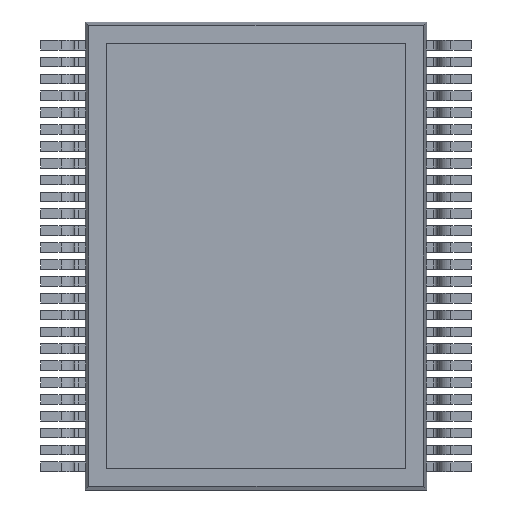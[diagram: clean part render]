
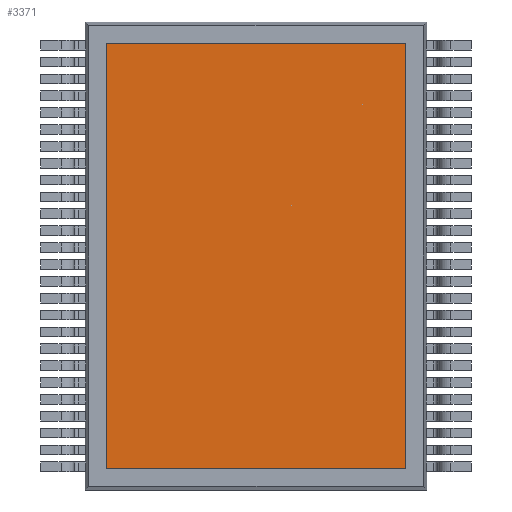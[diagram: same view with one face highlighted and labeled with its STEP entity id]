
A CAD part, front view. The second image highlights one B-rep face of the part: STEP entity #3371.
In plain terms, the highlighted planar face has unit normal (0, -1, 0).
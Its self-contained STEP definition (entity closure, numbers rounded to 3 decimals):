
#1924 = EDGE_CURVE ( 'NONE', #4741, #4743, #12885, .T. ) ;
#1927 = EDGE_CURVE ( 'NONE', #4743, #4749, #12890, .T. ) ;
#1929 = EDGE_CURVE ( 'NONE', #4749, #4742, #12892, .T. ) ;
#1930 = EDGE_CURVE ( 'NONE', #4742, #4741, #12898, .T. ) ;
#3371 = ADVANCED_FACE ( 'NONE', ( #27755 ), #26652, .F. ) ;
#4725 = ORIENTED_EDGE ( 'NONE', *, *, #1924, .T. ) ;
#4726 = ORIENTED_EDGE ( 'NONE', *, *, #1927, .T. ) ;
#4727 = ORIENTED_EDGE ( 'NONE', *, *, #1929, .T. ) ;
#4728 = ORIENTED_EDGE ( 'NONE', *, *, #1930, .T. ) ;
#4741 = VERTEX_POINT ( 'NONE', #26791 ) ;
#4742 = VERTEX_POINT ( 'NONE', #26792 ) ;
#4743 = VERTEX_POINT ( 'NONE', #26793 ) ;
#4749 = VERTEX_POINT ( 'NONE', #26799 ) ;
#5137 = EDGE_LOOP ( 'NONE', ( #4725, #4726, #4727, #4728 ) ) ;
#12334 = CARTESIAN_POINT ( 'NONE',  ( 3.55, 0., 5.05 ) ) ;
#12341 = DIRECTION ( 'NONE',  ( 0., 0., 1. ) ) ;
#12342 = CARTESIAN_POINT ( 'NONE',  ( -3.55, 0., 5.05 ) ) ;
#12344 = CARTESIAN_POINT ( 'NONE',  ( -3.55, 0., 5.05 ) ) ;
#12346 = DIRECTION ( 'NONE',  ( -1., 0., 0. ) ) ;
#12350 = DIRECTION ( 'NONE',  ( 0., 0., -1. ) ) ;
#12351 = CARTESIAN_POINT ( 'NONE',  ( -3.55, 0., -5.05 ) ) ;
#12352 = DIRECTION ( 'NONE',  ( 1., 0., 0. ) ) ;
#12885 = LINE ( 'NONE', #12334, #12889 ) ;
#12889 = VECTOR ( 'NONE', #12341, 1000. ) ;
#12890 = LINE ( 'NONE', #12342, #12895 ) ;
#12892 = LINE ( 'NONE', #12344, #12899 ) ;
#12895 = VECTOR ( 'NONE', #12346, 1000. ) ;
#12898 = LINE ( 'NONE', #12351, #12901 ) ;
#12899 = VECTOR ( 'NONE', #12350, 1000. ) ;
#12901 = VECTOR ( 'NONE', #12352, 1000. ) ;
#24235 = AXIS2_PLACEMENT_3D ( 'NONE', #26671, #26672, #26673 ) ;
#26652 = PLANE ( 'NONE',  #24235 ) ;
#26671 = CARTESIAN_POINT ( 'NONE',  ( 0., 0., 0. ) ) ;
#26672 = DIRECTION ( 'NONE',  ( 0., 1., 0. ) ) ;
#26673 = DIRECTION ( 'NONE',  ( 0., 0., 1. ) ) ;
#26791 = CARTESIAN_POINT ( 'NONE',  ( 3.55, 0., -5.05 ) ) ;
#26792 = CARTESIAN_POINT ( 'NONE',  ( -3.55, 0., -5.05 ) ) ;
#26793 = CARTESIAN_POINT ( 'NONE',  ( 3.55, 0., 5.05 ) ) ;
#26799 = CARTESIAN_POINT ( 'NONE',  ( -3.55, 0., 5.05 ) ) ;
#27755 = FACE_OUTER_BOUND ( 'NONE', #5137, .T. ) ;
